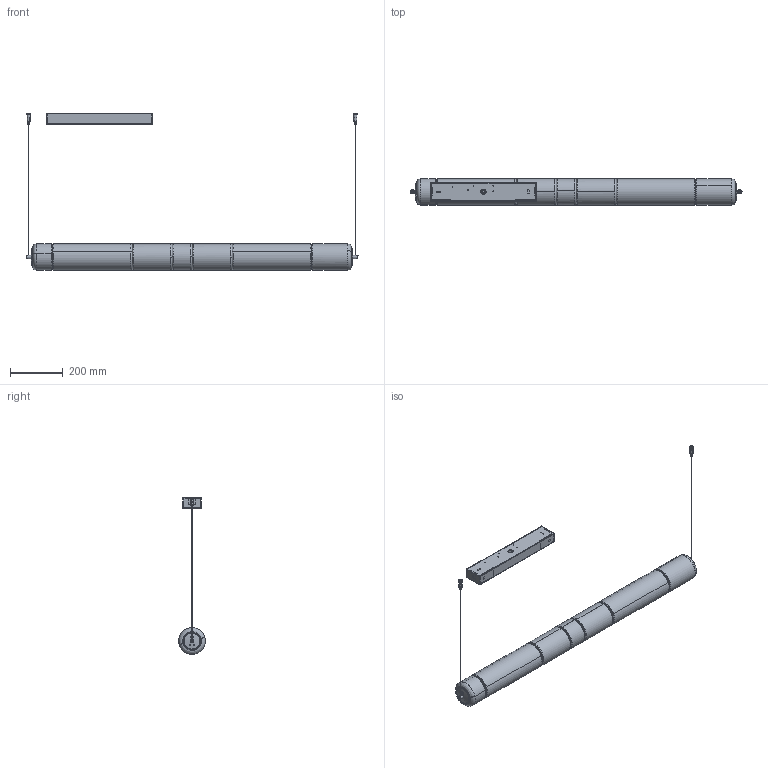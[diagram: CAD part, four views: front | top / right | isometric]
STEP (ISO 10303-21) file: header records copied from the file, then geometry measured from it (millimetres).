
FILE_DESCRIPTION(/* description */ (''),/* implementation_level */ '2;1');
FILE_NAME(/* name */ '00343MP1LD00PD - STACKING S 120',/* time_stamp */ '2023-05-04T11:15:45+02:00',/* author */ (''),/* organization */ (''),/* preprocessor_version */ 'ST-DEVELOPER v16.5',/* originating_system */ 'Rhino 7.27',/* authorisation */ '');
FILE_SCHEMA (('CONFIG_CONTROL_DESIGN'));
Length unit declared in the file: millimetre
Products named in the file (1): Document
Bounding box: 1256 x 100 x 592 mm (x, y, z)
Volume: 1946841.5 mm3; surface area: 1520005.5 mm2
Topology: 29 solids, 29 shells, 1074 faces, 2561 edges, 1659 vertices
Faces by surface type: plane 482, bspline 314, cylinder 278
Entity records: 39461 total; most frequent: CARTESIAN_POINT 22501, ORIENTED_EDGE 5106, EDGE_CURVE 2553, VERTEX_POINT 1659, EDGE_LOOP 1264, B_SPLINE_CURVE_WITH_KNOTS 1243, ADVANCED_FACE 1074, FACE_OUTER_BOUND 1074
